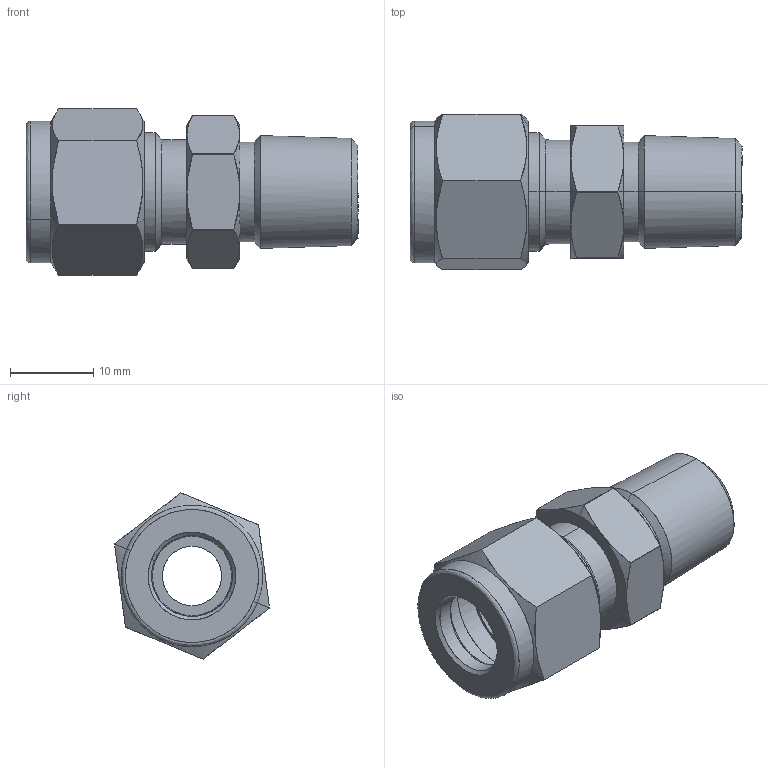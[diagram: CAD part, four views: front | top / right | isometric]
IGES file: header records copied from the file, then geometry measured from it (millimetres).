
Start section: Comment
Global section: file name: SMC6-4N.igs; native system:  By UGS Corp.; preprocessor: XPlus GENERIC/IGES 3.0; author: Author; organization: Title; date: 20100113.154820; units: millimetre
Bounding box: 39.9 x 18.64 x 19.99 mm (x, y, z)
Surface area: 4287.4 mm2 (no closed solid volume)
Topology: 0 solids, 0 shells, 84 faces, 370 edges, 370 vertices
Faces by surface type: bspline 84
